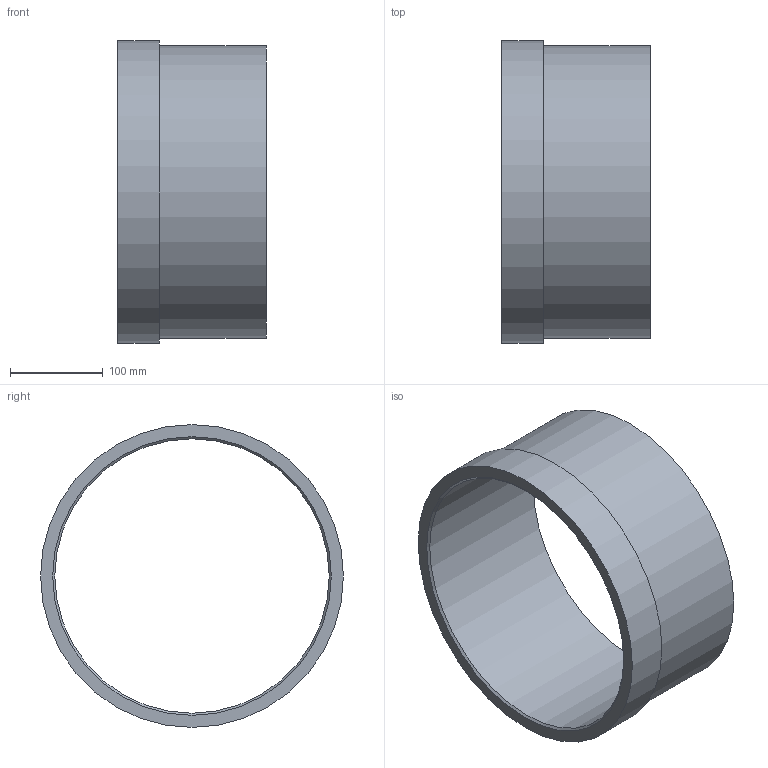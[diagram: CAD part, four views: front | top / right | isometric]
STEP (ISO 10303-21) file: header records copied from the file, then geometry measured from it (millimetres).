
FILE_DESCRIPTION(/* description */ (''),/* implementation_level */ '2;1');
FILE_NAME(/* name */ 'Z:\Geberit\Export\NewStep\372738.stp',/* time_stamp */ '2014-04-02T08:07:07+02:00',/* author */ ('ML'),/* organization */ (''),/* preprocessor_version */ 'ST-DEVELOPER v15.2',/* originating_system */ 'Autodesk Inventor 2014',/* authorisation */ '');
FILE_SCHEMA (('AUTOMOTIVE_DESIGN { 1 0 10303 214 3 1 1 }'));
Length unit declared in the file: millimetre
Products named in the file (1): 372738
Bounding box: 160 x 326 x 326 mm (x, y, z)
Volume: 1750156 mm3; surface area: 337000.6 mm2
Topology: 1 solids, 1 shells, 7 faces, 11 edges, 7 vertices
Faces by surface type: plane 3, cylinder 3, cone 1
Full cylindrical faces by diameter (mm): 295.4 x1, 315 x1, 326 x1
Entity records: 176 total; most frequent: DIRECTION 30, CARTESIAN_POINT 22, AXIS2_PLACEMENT_3D 15, EDGE_LOOP 14, ORIENTED_EDGE 14, FACE_BOUND 9, STYLED_ITEM 8, CIRCLE 7
